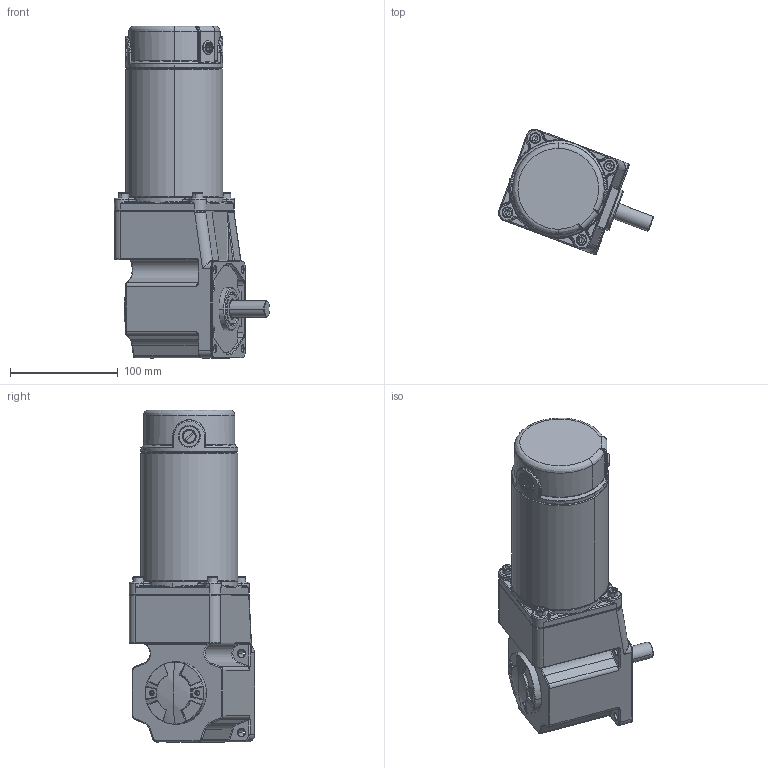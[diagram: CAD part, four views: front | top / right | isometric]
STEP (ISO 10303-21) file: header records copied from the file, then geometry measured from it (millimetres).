
FILE_DESCRIPTION (( 'STEP AP214' ), '1' );
FILE_NAME ('Íâ¾¶90-120»ú¿ÇRT.STEP', '2021-07-23T08:03:14', ( '' ), ( '' ), 'SwSTEP 2.0', 'SolidWorks 2021', '' );
FILE_SCHEMA (( 'AUTOMOTIVE_DESIGN' ));
Length unit declared in the file: millimetre
Products named in the file (8): 俋噤90-120儂褲RT; PRT0001; T; L; 5RT_2; PRT0002_1; Z55D-300W-L_1_1; PRT0003_1
Assembly tree (9 placements, depth 3):
  俋噤90-120儂褲RT
    5RT_2
    Z55D-300W-L_1_1
      L  x2
      PRT0001
      PRT0003_1
      PRT0002_1
      T  x2
Bounding box: 144.08 x 116.29 x 308.5 mm (x, y, z)
Volume: 1014554.3 mm3; surface area: 282052.7 mm2
Topology: 22 solids, 24 shells, 2383 faces, 5770 edges, 3410 vertices
Faces by surface type: cylinder 671, plane 540, cone 433, bspline 372, torus 291, sphere 76
Entity records: 104554 total; most frequent: CARTESIAN_POINT 53884, ORIENTED_EDGE 11156, DIRECTION 9685, EDGE_CURVE 5578, AXIS2_PLACEMENT_3D 3971, VERTEX_POINT 3335, EDGE_LOOP 2443, ADVANCED_FACE 2334
